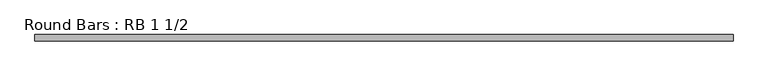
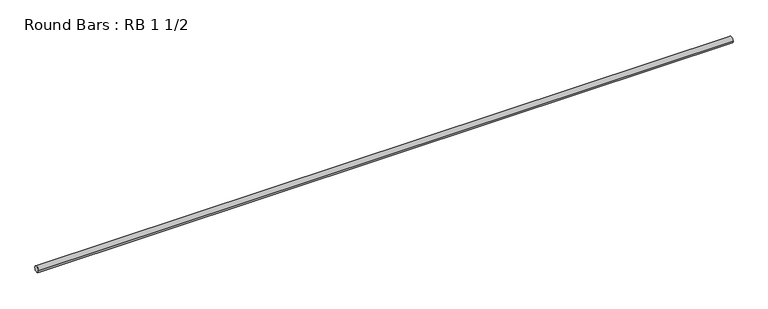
"""IFC4 building model written with IfcOpenShell, lengths in millimetres: member geometry, Round Bars : RB 1 1/2."""

from ifc_helpers import new_model, si_unit, point, frame, origin, origin_2d, place, context, project, spatial, circle_curve, trimmed, segment, composite_curve, outline, extrude, source, transform, mapped, element, save


def round_bars_rb_1_1_2_3e8e4eeb(model_context):
    return source(origin(), model_context, "Body", "SweptSolid", [
        extrude(outline(composite_curve([segment(trimmed(circle_curve(origin_2d(), 19.05), [point((19.05, 0.0))], [point((-19.05, 0.0))], False, "CARTESIAN"), True, "CONTINUOUS"), segment(trimmed(circle_curve(origin_2d(), 19.05), [point((-19.05, 0.0))], [point((19.05, 0.0))], False, "CARTESIAN"), True, "CONTINUOUS")], self_intersect=False)), frame((-2149.263788, 0.0, 0.0), z_axis=(1.0, 0.0, 0.0), x_axis=(0.0, 1.0, 0.0)), (0.0, 0.0, 1.0), 4298.527576),
    ])


if __name__ == "__main__":
    model = new_model("IFC4")
    model_context = context("Model", 3, world=origin())
    ifc_project = project(units=[si_unit("LENGTHUNIT", "METRE", prefix="MILLI")], contexts=[model_context])
    site = spatial("IfcSite", under=ifc_project)
    building = spatial("IfcBuilding", under=site)
    placement = place(None, origin())
    round_bars_rb_1_1_2_shape = round_bars_rb_1_1_2_3e8e4eeb(model_context)
    element("IfcMember", 1, ObjectType="Round Bars : RB 1 1/2", at=placement, inside=building, context=model_context, shape_type="MappedRepresentation", body=[
        mapped(round_bars_rb_1_1_2_shape, transform((0.0, 0.0, 0.0), x_axis=(1.0, 0.0, 0.0), y_axis=(0.0, 1.0, 0.0), z_axis=(0.0, 0.0, 1.0))),
    ])
    save(model, "model.ifc")
